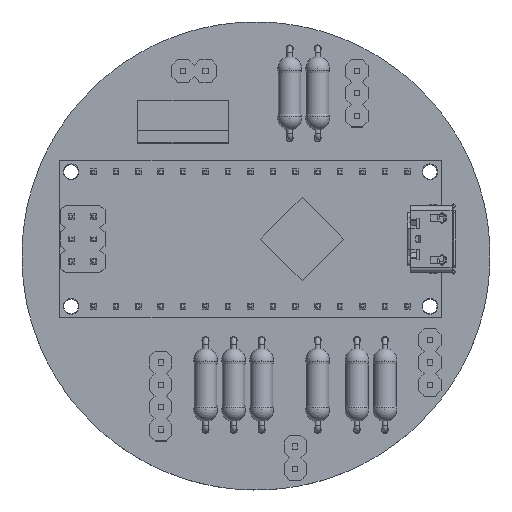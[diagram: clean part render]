
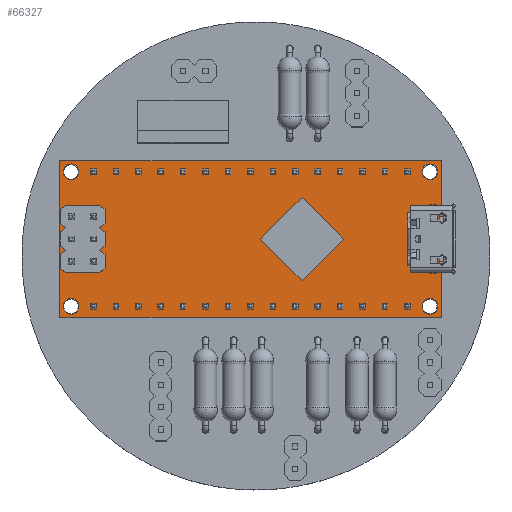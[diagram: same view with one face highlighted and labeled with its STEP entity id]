
A CAD part, top view. The second image highlights one B-rep face of the part: STEP entity #66327.
In plain terms, the highlighted planar face has unit normal (0, 0, 1) as drawn and (0, 1, 0) by its records, which use the part's own axes.
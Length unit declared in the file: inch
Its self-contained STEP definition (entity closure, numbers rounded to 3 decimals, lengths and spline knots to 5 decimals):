
#49696 = LINE ( 'NONE', #76585, #67662 ) ;
#50122 = VECTOR ( 'NONE', #61841, 39.37008 ) ;
#50148 = EDGE_CURVE ( 'NONE', #64057, #73463, #72832, .T. ) ;
#50358 = ORIENTED_EDGE ( 'NONE', *, *, #74498, .T. ) ;
#50411 = CARTESIAN_POINT ( 'NONE',  ( -0.3, 0.05, 0.8 ) ) ;
#50513 = AXIS2_PLACEMENT_3D ( 'NONE', #73588, #73680, #59619 ) ;
#50566 = EDGE_CURVE ( 'NONE', #70601, #52587, #64326, .T. ) ;
#50830 = DIRECTION ( 'NONE',  ( -0.707, 0., -0.707 ) ) ;
#50964 = CARTESIAN_POINT ( 'NONE',  ( -0.18379, 0.05, 0.22945 ) ) ;
#51115 = DIRECTION ( 'NONE',  ( 0., -1., 0. ) ) ;
#51169 = DIRECTION ( 'NONE',  ( -1., 0., 0. ) ) ;
#52514 = CARTESIAN_POINT ( 'NONE',  ( 0., 0.05, 0.04566 ) ) ;
#52587 = VERTEX_POINT ( 'NONE', #53567 ) ;
#52771 = DIRECTION ( 'NONE',  ( 0., 0., -1. ) ) ;
#52861 = VERTEX_POINT ( 'NONE', #60426 ) ;
#53367 = FACE_OUTER_BOUND ( 'NONE', #53898, .T. ) ;
#53511 = ORIENTED_EDGE ( 'NONE', *, *, #77472, .T. ) ;
#53567 = CARTESIAN_POINT ( 'NONE',  ( 0.3, 0.05, 0.835 ) ) ;
#53898 = EDGE_LOOP ( 'NONE', ( #76303, #54127, #55172, #78103 ) ) ;
#54055 = ORIENTED_EDGE ( 'NONE', *, *, #64555, .T. ) ;
#54127 = ORIENTED_EDGE ( 'NONE', *, *, #79991, .T. ) ;
#54627 = EDGE_CURVE ( 'NONE', #63295, #52861, #75073, .T. ) ;
#55163 = DIRECTION ( 'NONE',  ( 0., -1., 0. ) ) ;
#55172 = ORIENTED_EDGE ( 'NONE', *, *, #75684, .T. ) ;
#55449 = DIRECTION ( 'NONE',  ( 0., -1., 0. ) ) ;
#55675 = DIRECTION ( 'NONE',  ( 0., -1., 0. ) ) ;
#55873 = ORIENTED_EDGE ( 'NONE', *, *, #67121, .T. ) ;
#55915 = CARTESIAN_POINT ( 'NONE',  ( -0.3, 0.05, 0.8 ) ) ;
#56003 = VERTEX_POINT ( 'NONE', #78130 ) ;
#56010 = LINE ( 'NONE', #72414, #62241 ) ;
#56347 = CARTESIAN_POINT ( 'NONE',  ( 0.3, 0.05, 0.8 ) ) ;
#56353 = CARTESIAN_POINT ( 'NONE',  ( -0.18379, 0.05, 0.22945 ) ) ;
#56739 = AXIS2_PLACEMENT_3D ( 'NONE', #55915, #72363, #58297 ) ;
#57255 = PLANE ( 'NONE',  #50513 ) ;
#57291 = CARTESIAN_POINT ( 'NONE',  ( -0.35, 0.05, -0.85 ) ) ;
#57429 = VERTEX_POINT ( 'NONE', #67005 ) ;
#57555 = CARTESIAN_POINT ( 'NONE',  ( 0.3, 0.05, -0.765 ) ) ;
#57664 = CIRCLE ( 'NONE', #59566, 0.035 ) ;
#57665 = VERTEX_POINT ( 'NONE', #57555 ) ;
#57692 = LINE ( 'NONE', #58315, #69419 ) ;
#58132 = VECTOR ( 'NONE', #67402, 39.37008 ) ;
#58297 = DIRECTION ( 'NONE',  ( 0., 0., -1. ) ) ;
#58315 = CARTESIAN_POINT ( 'NONE',  ( 0.18379, 0.05, 0.22945 ) ) ;
#58588 = AXIS2_PLACEMENT_3D ( 'NONE', #56347, #72775, #58718 ) ;
#58718 = DIRECTION ( 'NONE',  ( 0., 0., -1. ) ) ;
#59488 = VERTEX_POINT ( 'NONE', #69380 ) ;
#59566 = AXIS2_PLACEMENT_3D ( 'NONE', #65149, #51115, #67507 ) ;
#59605 = FACE_BOUND ( 'NONE', #74651, .T. ) ;
#59619 = DIRECTION ( 'NONE',  ( 0., 0., 1. ) ) ;
#59689 = DIRECTION ( 'NONE',  ( 0., -1., 0. ) ) ;
#60323 = CARTESIAN_POINT ( 'NONE',  ( 0., 0.05, 0.85 ) ) ;
#60334 = FACE_BOUND ( 'NONE', #78059, .T. ) ;
#60426 = CARTESIAN_POINT ( 'NONE',  ( 0.18379, 0.05, 0.22945 ) ) ;
#60576 = VECTOR ( 'NONE', #61645, 39.37008 ) ;
#61645 = DIRECTION ( 'NONE',  ( 0., 0., -1. ) ) ;
#61719 = CIRCLE ( 'NONE', #58588, 0.035 ) ;
#61841 = DIRECTION ( 'NONE',  ( 0.707, 0., 0.707 ) ) ;
#62055 = CARTESIAN_POINT ( 'NONE',  ( 0.3, 0.05, 0.765 ) ) ;
#62241 = VECTOR ( 'NONE', #51169, 39.37008 ) ;
#62452 = AXIS2_PLACEMENT_3D ( 'NONE', #50411, #66813, #52771 ) ;
#62743 = EDGE_CURVE ( 'NONE', #56003, #62938, #49696, .T. ) ;
#62859 = LINE ( 'NONE', #70090, #73866 ) ;
#62938 = VERTEX_POINT ( 'NONE', #56353 ) ;
#63197 = EDGE_LOOP ( 'NONE', ( #71210, #50358 ) ) ;
#63295 = VERTEX_POINT ( 'NONE', #63960 ) ;
#63449 = CARTESIAN_POINT ( 'NONE',  ( 0.35, 0.05, 0.85 ) ) ;
#63960 = CARTESIAN_POINT ( 'NONE',  ( 0., 0.05, 0.04566 ) ) ;
#64057 = VERTEX_POINT ( 'NONE', #67408 ) ;
#64326 = CIRCLE ( 'NONE', #78912, 0.035 ) ;
#64555 = EDGE_CURVE ( 'NONE', #59488, #78653, #70857, .T. ) ;
#64806 = CARTESIAN_POINT ( 'NONE',  ( 0.3, 0.05, -0.835 ) ) ;
#64831 = VERTEX_POINT ( 'NONE', #74827 ) ;
#65149 = CARTESIAN_POINT ( 'NONE',  ( -0.3, 0.05, -0.8 ) ) ;
#66327 = ADVANCED_FACE ( 'NONE', ( #78330, #60334, #59605, #53367, #77591, #71333 ), #57255, .T. ) ;
#66348 = ORIENTED_EDGE ( 'NONE', *, *, #74916, .T. ) ;
#66813 = DIRECTION ( 'NONE',  ( 0., -1., 0. ) ) ;
#66973 = AXIS2_PLACEMENT_3D ( 'NONE', #69497, #55449, #71881 ) ;
#67005 = CARTESIAN_POINT ( 'NONE',  ( -0.3, 0.05, -0.765 ) ) ;
#67121 = EDGE_CURVE ( 'NONE', #62938, #63295, #79734, .T. ) ;
#67271 = ORIENTED_EDGE ( 'NONE', *, *, #62743, .T. ) ;
#67402 = DIRECTION ( 'NONE',  ( 1., 0., 0. ) ) ;
#67408 = CARTESIAN_POINT ( 'NONE',  ( -0.35, 0.05, 0.85 ) ) ;
#67507 = DIRECTION ( 'NONE',  ( 0., 0., -1. ) ) ;
#67662 = VECTOR ( 'NONE', #50830, 39.37008 ) ;
#69090 = CARTESIAN_POINT ( 'NONE',  ( 0.35, 0.05, -0.85 ) ) ;
#69189 = CIRCLE ( 'NONE', #56739, 0.035 ) ;
#69217 = CARTESIAN_POINT ( 'NONE',  ( 0.3, 0.05, -0.8 ) ) ;
#69380 = CARTESIAN_POINT ( 'NONE',  ( -0.3, 0.05, 0.835 ) ) ;
#69419 = VECTOR ( 'NONE', #72470, 39.37008 ) ;
#69479 = CARTESIAN_POINT ( 'NONE',  ( -0.3, 0.05, 0.765 ) ) ;
#69497 = CARTESIAN_POINT ( 'NONE',  ( -0.3, 0.05, -0.8 ) ) ;
#69592 = EDGE_LOOP ( 'NONE', ( #55873, #73423, #71676, #67271 ) ) ;
#69737 = CARTESIAN_POINT ( 'NONE',  ( 0.3, 0.05, -0.8 ) ) ;
#70090 = CARTESIAN_POINT ( 'NONE',  ( -0.35, 0.05, 0. ) ) ;
#70237 = CIRCLE ( 'NONE', #66973, 0.035 ) ;
#70601 = VERTEX_POINT ( 'NONE', #62055 ) ;
#70857 = CIRCLE ( 'NONE', #62452, 0.035 ) ;
#71011 = CIRCLE ( 'NONE', #71285, 0.035 ) ;
#71210 = ORIENTED_EDGE ( 'NONE', *, *, #76100, .T. ) ;
#71285 = AXIS2_PLACEMENT_3D ( 'NONE', #69737, #55675, #72115 ) ;
#71333 = FACE_BOUND ( 'NONE', #75898, .T. ) ;
#71595 = DIRECTION ( 'NONE',  ( 0., 0., -1. ) ) ;
#71676 = ORIENTED_EDGE ( 'NONE', *, *, #77042, .T. ) ;
#71881 = DIRECTION ( 'NONE',  ( 0., 0., -1. ) ) ;
#72097 = DIRECTION ( 'NONE',  ( 0.707, 0., -0.707 ) ) ;
#72115 = DIRECTION ( 'NONE',  ( 0., 0., -1. ) ) ;
#72363 = DIRECTION ( 'NONE',  ( 0., -1., 0. ) ) ;
#72414 = CARTESIAN_POINT ( 'NONE',  ( 0., 0.05, -0.85 ) ) ;
#72459 = DIRECTION ( 'NONE',  ( 0., 0., 1. ) ) ;
#72470 = DIRECTION ( 'NONE',  ( -0.707, 0., 0.707 ) ) ;
#72775 = DIRECTION ( 'NONE',  ( 0., -1., 0. ) ) ;
#72832 = LINE ( 'NONE', #60323, #58132 ) ;
#73378 = CARTESIAN_POINT ( 'NONE',  ( 0.35, 0.05, 0. ) ) ;
#73423 = ORIENTED_EDGE ( 'NONE', *, *, #54627, .T. ) ;
#73463 = VERTEX_POINT ( 'NONE', #63449 ) ;
#73523 = VECTOR ( 'NONE', #72097, 39.37008 ) ;
#73588 = CARTESIAN_POINT ( 'NONE',  ( 0., 0.05, 0. ) ) ;
#73593 = ORIENTED_EDGE ( 'NONE', *, *, #77112, .T. ) ;
#73680 = DIRECTION ( 'NONE',  ( 0., 1., 0. ) ) ;
#73755 = CARTESIAN_POINT ( 'NONE',  ( 0.3, 0.05, 0.8 ) ) ;
#73866 = VECTOR ( 'NONE', #72459, 39.37008 ) ;
#73906 = EDGE_CURVE ( 'NONE', #78653, #59488, #69189, .T. ) ;
#74091 = AXIS2_PLACEMENT_3D ( 'NONE', #69217, #55163, #71595 ) ;
#74498 = EDGE_CURVE ( 'NONE', #57665, #79845, #71011, .T. ) ;
#74502 = ORIENTED_EDGE ( 'NONE', *, *, #73906, .T. ) ;
#74588 = CIRCLE ( 'NONE', #74091, 0.035 ) ;
#74651 = EDGE_LOOP ( 'NONE', ( #53511, #66348 ) ) ;
#74827 = CARTESIAN_POINT ( 'NONE',  ( -0.3, 0.05, -0.835 ) ) ;
#74916 = EDGE_CURVE ( 'NONE', #57429, #64831, #70237, .T. ) ;
#75073 = LINE ( 'NONE', #52514, #50122 ) ;
#75684 = EDGE_CURVE ( 'NONE', #78542, #64057, #62859, .T. ) ;
#75898 = EDGE_LOOP ( 'NONE', ( #74502, #54055 ) ) ;
#76100 = EDGE_CURVE ( 'NONE', #79845, #57665, #74588, .T. ) ;
#76103 = DIRECTION ( 'NONE',  ( 0., 0., -1. ) ) ;
#76303 = ORIENTED_EDGE ( 'NONE', *, *, #77789, .T. ) ;
#76585 = CARTESIAN_POINT ( 'NONE',  ( 0., 0.05, 0.41324 ) ) ;
#76647 = VERTEX_POINT ( 'NONE', #69090 ) ;
#76928 = ORIENTED_EDGE ( 'NONE', *, *, #50566, .T. ) ;
#77042 = EDGE_CURVE ( 'NONE', #52861, #56003, #57692, .T. ) ;
#77112 = EDGE_CURVE ( 'NONE', #52587, #70601, #61719, .T. ) ;
#77472 = EDGE_CURVE ( 'NONE', #64831, #57429, #57664, .T. ) ;
#77591 = FACE_BOUND ( 'NONE', #63197, .T. ) ;
#77789 = EDGE_CURVE ( 'NONE', #73463, #76647, #79311, .T. ) ;
#78059 = EDGE_LOOP ( 'NONE', ( #76928, #73593 ) ) ;
#78103 = ORIENTED_EDGE ( 'NONE', *, *, #50148, .T. ) ;
#78130 = CARTESIAN_POINT ( 'NONE',  ( 0., 0.05, 0.41324 ) ) ;
#78330 = FACE_BOUND ( 'NONE', #69592, .T. ) ;
#78542 = VERTEX_POINT ( 'NONE', #57291 ) ;
#78653 = VERTEX_POINT ( 'NONE', #69479 ) ;
#78912 = AXIS2_PLACEMENT_3D ( 'NONE', #73755, #59689, #76103 ) ;
#79311 = LINE ( 'NONE', #73378, #60576 ) ;
#79734 = LINE ( 'NONE', #50964, #73523 ) ;
#79845 = VERTEX_POINT ( 'NONE', #64806 ) ;
#79991 = EDGE_CURVE ( 'NONE', #76647, #78542, #56010, .T. ) ;
